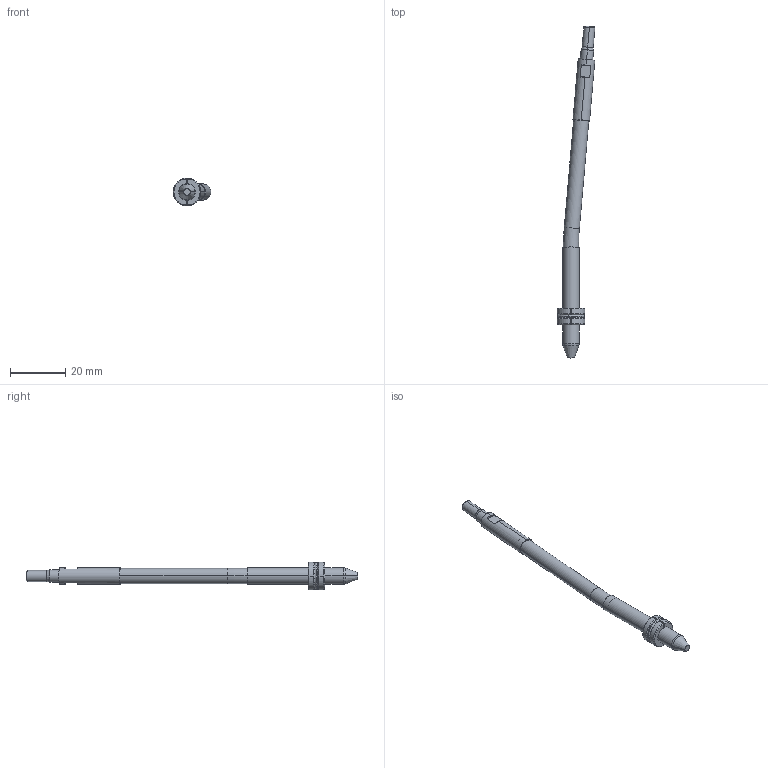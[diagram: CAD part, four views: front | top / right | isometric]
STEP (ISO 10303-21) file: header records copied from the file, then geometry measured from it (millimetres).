
FILE_DESCRIPTION (( 'STEP AP214' ), '1' );
FILE_NAME ('WP060030-EJE 5°.STEP', '2021-03-19T15:10:50', ( '' ), ( '' ), 'SwSTEP 2.0', 'SolidWorks 2019', '' );
FILE_SCHEMA (( 'AUTOMOTIVE_DESIGN' ));
Length unit declared in the file: millimetre
Products named in the file (6): WEB-002-9WP060030-2; WEB-008-JUNTA-JT7X1X9; WP060030-EJE 5°; WEB-006-9WP060030-6; WEB-007-9WP060030-F_WP060030-F-ON 5ø; WEB-001-9WP060030-1
Assembly tree (5 placements, depth 2):
  WP060030-EJE 5°
    WEB-001-9WP060030-1
    WEB-007-9WP060030-F_WP060030-F-ON 5ø
    WEB-002-9WP060030-2
    WEB-006-9WP060030-6
    WEB-008-JUNTA-JT7X1X9
Bounding box: 13.62 x 119.66 x 9.99 mm (x, y, z)
Volume: 3174 mm3; surface area: 2920.6 mm2
Topology: 6 solids, 6 shells, 112 faces, 260 edges, 162 vertices
Faces by surface type: cylinder 36, cone 28, plane 28, torus 20
Entity records: 3703 total; most frequent: CARTESIAN_POINT 710, DIRECTION 594, ORIENTED_EDGE 520, EDGE_CURVE 260, AXIS2_PLACEMENT_3D 254, VERTEX_POINT 162, CIRCLE 134, EDGE_LOOP 116
